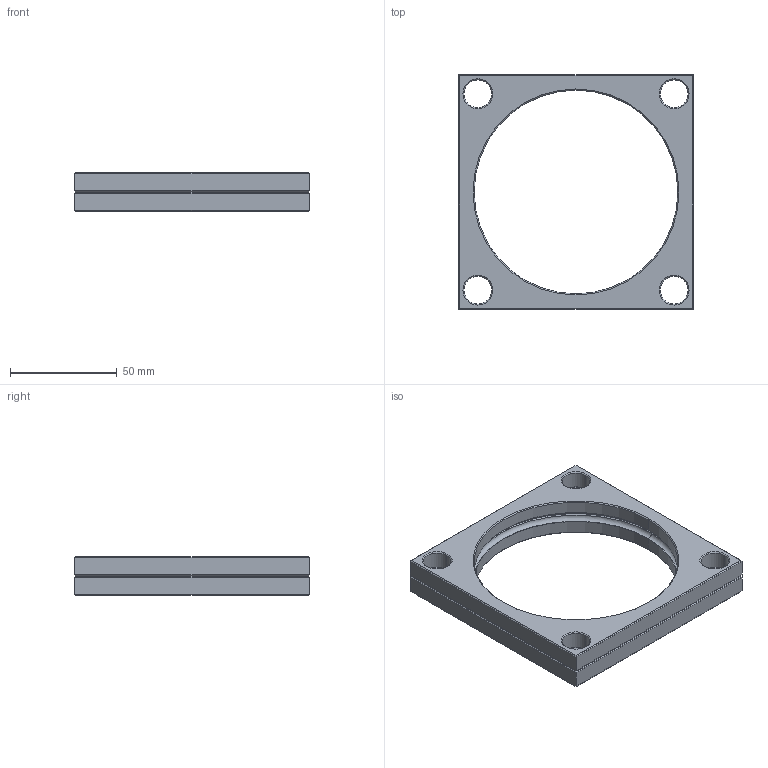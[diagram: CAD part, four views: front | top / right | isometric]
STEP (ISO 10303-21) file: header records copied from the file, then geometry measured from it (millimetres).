
FILE_DESCRIPTION(('CATIA V5 STEP Exchange'),'2;1');
FILE_NAME('W:\CATALOGO GENERAL 2018\FICHEROS CAD\023-BRIDAS\02-FSC\FSC 95.stp','2017-11-27T07:24:14+00:00',('none'),('none'),'CATIA Version 5 Release 17 (IN-10)','CATIA V5 STEP AP203','none');
FILE_SCHEMA(('CONFIG_CONTROL_DESIGN'));
Length unit declared in the file: millimetre
Products named in the file (1): BRIDA FSC95
Bounding box: 110 x 110 x 18 mm (x, y, z)
Volume: 75904.9 mm3; surface area: 25860.4 mm2
Topology: 1 solids, 1 shells, 92 faces, 194 edges, 106 vertices
Faces by surface type: cone 40, plane 28, cylinder 20, torus 4
Entity records: 2294 total; most frequent: CARTESIAN_POINT 395, ORIENTED_EDGE 388, DIRECTION 334, EDGE_CURVE 194, AXIS2_PLACEMENT_3D 161, VERTEX_POINT 106, EDGE_LOOP 104, VECTOR 96
